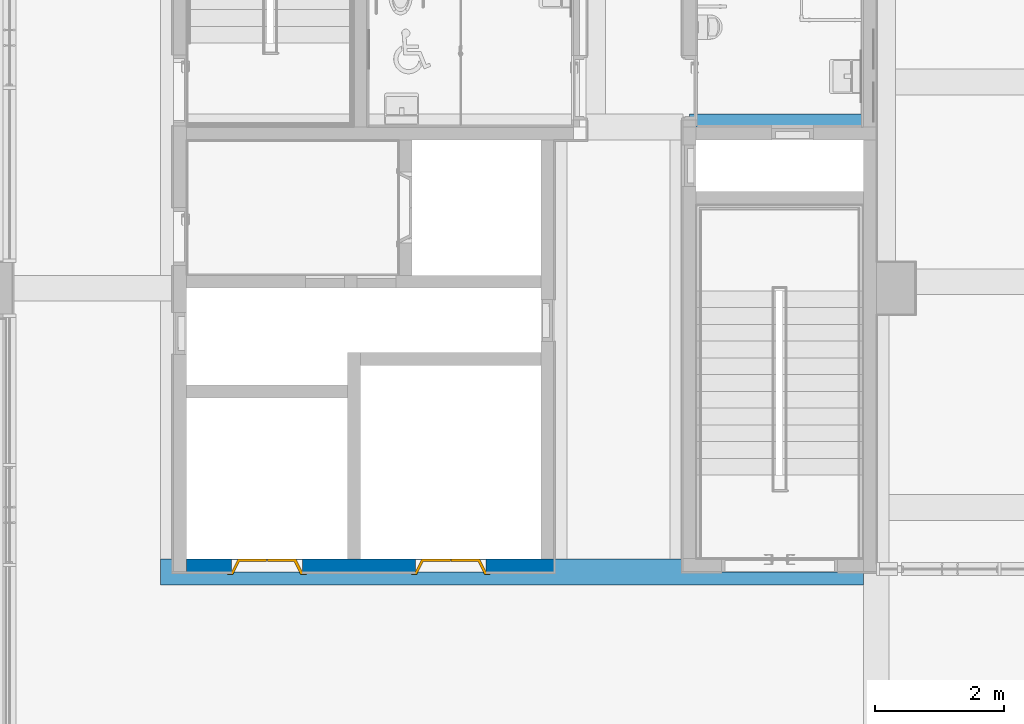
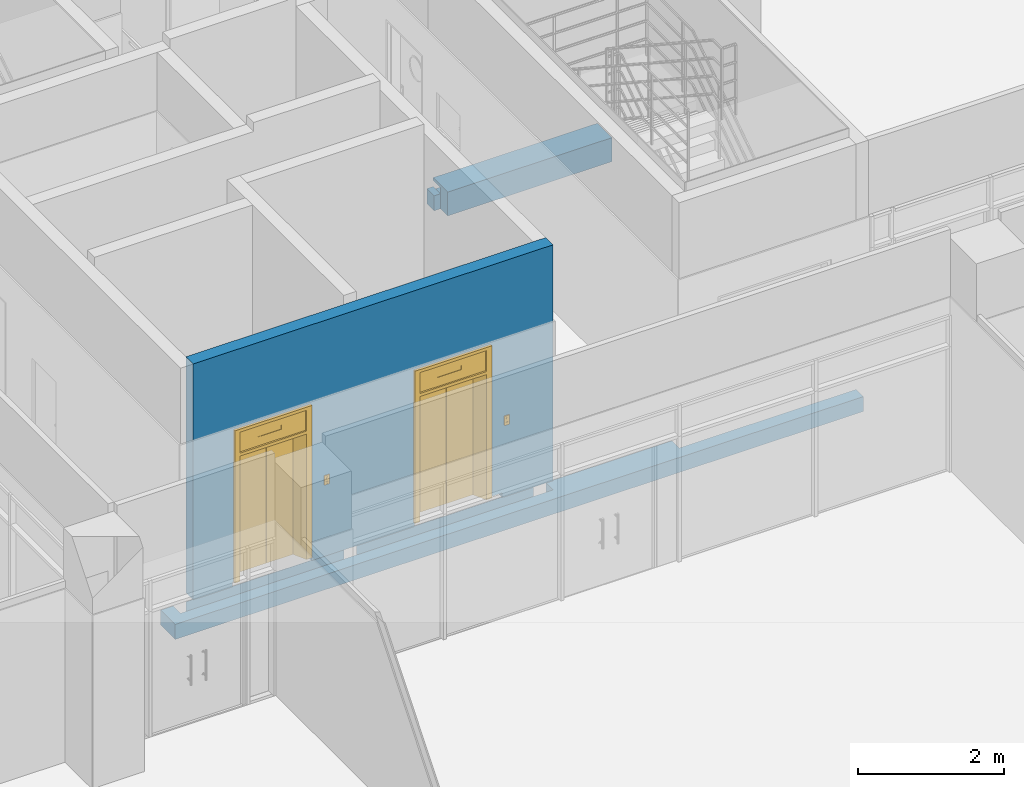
# One storey, part 60 of 76: 2 beams, 2 doors, 1 wall, 2 openings.
"""IFC2X3 building model written with IfcOpenShell, lengths in millimetres."""

from ifc_helpers import new_model, entity, si_unit, converted_unit, derived_unit, direction, frame, frame_2d, origin, place, context, subcontext, project, spatial, rectangle, extrude, faceted_brep, source, transform, mapped, material, material_list, layer, layer_set, type_object, type_shapes, element, fill, save


model = new_model("IFC2X3")

# Units and contexts
model_context = context("Model", 3, precision=0.01, world=origin(), true_north=direction((6.123031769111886e-17, 1.0)))
body_context = subcontext(model_context, "Body", "Model", "MODEL_VIEW")
ifc_project = project(units=[si_unit("LENGTHUNIT", "METRE", prefix="MILLI"), si_unit("AREAUNIT", "SQUARE_METRE"), si_unit("VOLUMEUNIT", "CUBIC_METRE"), converted_unit("PLANEANGLEUNIT", "DEGREE", entity("IfcRatioMeasure", 0.017453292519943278), si_unit("PLANEANGLEUNIT", "RADIAN"), dimensions=[0, 0, 0, 0, 0, 0, 0]), si_unit("MASSUNIT", "GRAM", prefix="KILO"), derived_unit("MASSDENSITYUNIT", [(si_unit("MASSUNIT", "GRAM", prefix="KILO"), 1), (si_unit("LENGTHUNIT", "METRE"), -3)]), derived_unit("MOMENTOFINERTIAUNIT", [(si_unit("LENGTHUNIT", "METRE"), 4)]), si_unit("TIMEUNIT", "SECOND"), si_unit("FREQUENCYUNIT", "HERTZ"), si_unit("THERMODYNAMICTEMPERATUREUNIT", "DEGREE_CELSIUS"), derived_unit("THERMALTRANSMITTANCEUNIT", [(si_unit("MASSUNIT", "GRAM", prefix="KILO"), 1), (si_unit("THERMODYNAMICTEMPERATUREUNIT", "KELVIN"), -1), (si_unit("TIMEUNIT", "SECOND"), -3)]), derived_unit("VOLUMETRICFLOWRATEUNIT", [(si_unit("LENGTHUNIT", "METRE"), 3), (si_unit("TIMEUNIT", "SECOND"), -1)]), derived_unit("MASSFLOWRATEUNIT", [(si_unit("MASSUNIT", "GRAM", prefix="KILO"), 1), (si_unit("TIMEUNIT", "SECOND"), -1)]), derived_unit("ROTATIONALFREQUENCYUNIT", [(si_unit("TIMEUNIT", "SECOND"), -1)]), si_unit("ELECTRICCURRENTUNIT", "AMPERE"), si_unit("ELECTRICVOLTAGEUNIT", "VOLT"), si_unit("POWERUNIT", "WATT"), si_unit("FORCEUNIT", "NEWTON", prefix="KILO"), si_unit("ILLUMINANCEUNIT", "LUX"), si_unit("LUMINOUSFLUXUNIT", "LUMEN"), si_unit("LUMINOUSINTENSITYUNIT", "CANDELA"), derived_unit("USERDEFINED", [(si_unit("MASSUNIT", "GRAM", prefix="KILO"), -1), (si_unit("LENGTHUNIT", "METRE"), -2), (si_unit("TIMEUNIT", "SECOND"), 3), (si_unit("LUMINOUSFLUXUNIT", "LUMEN"), 1)]), derived_unit("SOUNDPOWERUNIT", [(si_unit("MASSUNIT", "GRAM", prefix="KILO"), 1), (si_unit("LENGTHUNIT", "METRE"), 2), (si_unit("TIMEUNIT", "SECOND"), -3)]), derived_unit("SOUNDPRESSUREUNIT", [(si_unit("MASSUNIT", "GRAM", prefix="KILO"), 1), (si_unit("LENGTHUNIT", "METRE"), -1), (si_unit("TIMEUNIT", "SECOND"), -2)]), derived_unit("LINEARVELOCITYUNIT", [(si_unit("LENGTHUNIT", "METRE"), 1), (si_unit("TIMEUNIT", "SECOND"), -1)]), si_unit("PRESSUREUNIT", "PASCAL"), derived_unit("USERDEFINED", [(si_unit("LENGTHUNIT", "METRE"), -2), (si_unit("MASSUNIT", "GRAM", prefix="KILO"), 1), (si_unit("TIMEUNIT", "SECOND"), -2)]), derived_unit("LINEARFORCEUNIT", [(si_unit("MASSUNIT", "GRAM", prefix="KILO"), 1), (si_unit("LENGTHUNIT", "METRE"), 1), (si_unit("TIMEUNIT", "SECOND"), -2), (si_unit("LENGTHUNIT", "METRE"), -1)]), derived_unit("PLANARFORCEUNIT", [(si_unit("MASSUNIT", "GRAM", prefix="KILO"), 1), (si_unit("LENGTHUNIT", "METRE"), 1), (si_unit("TIMEUNIT", "SECOND"), -2), (si_unit("LENGTHUNIT", "METRE"), -2)])], contexts=[model_context])

# Site, building, storey
site_placement = place(None, frame((-14167.972527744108, -657.2125860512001, 0.0)))
site = spatial("IfcSite", under=ifc_project, at=site_placement, Name="Default", CompositionType="ELEMENT")
building_placement = place(site_placement, origin())
building = spatial("IfcBuilding", under=site, at=building_placement, Name="Sample Building", CompositionType="ELEMENT")
storey_placement = place(building_placement, frame((0.0, 0.0, 9300.0)))
storey = spatial("IfcBuildingStorey", under=building, at=storey_placement, Name="지상 3층", CompositionType="ELEMENT", Elevation=9300.000000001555)

# Beams
ifc_material_1 = material(Name="KBIMS-콘크리트")
beam_type_1 = type_object("IfcBeamType", Name="BM111-철근콘크리트구조 보:BM110-철근 콘크리트구조 보_400 x 400_2-10B5", PredefinedType="NOTDEFINED")
beam_1_placement = place(storey_placement, frame((38067.9637981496, 22257.212429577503, -400.0)))
element("IfcBeam", 1, at=beam_1_placement, inside=storey, type_object=beam_type_1, material=ifc_material_1, Name="BM111-철근콘크리트구조 보:BM110-철근 콘크리트구조 보_400 x 400_2-10B5", ObjectType="BM111-철근콘크리트구조 보:BM110-철근 콘크리트구조 보_400 x 400_2-10B5", context=body_context, shape_type="Brep", body=[
    faceted_brep([(2700.0088093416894, 0.0, 400.0), (2700.0088093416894, 400.0, 400.0), (99.99126388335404, 400.0, 400.0), (99.99563194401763, 199.99988165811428, 400.0), (100.0, 0.0, 400.0), (2700.0088093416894, 0.0, 0.0), (100.0, 0.0, 0.0), (2700.008809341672, 400.0, 0.0), (100.0, 199.99986890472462, 0.0), (0.0, 199.99986890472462, 0.0), (0.0, 400.0, 0.0), (2700.008809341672, 400.0, 350.0), (99.99126388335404, 400.0, 350.0), (2700.0088093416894, 400.0, 200.0), (2700.0088093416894, 199.99987390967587, 200.0), (2700.0088093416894, 199.99987390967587, 350.0), (99.99126388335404, 400.0, 250.0), (0.0, 400.0, 250.0), (0.0, 199.99986890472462, 250.0), (99.99126388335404, 199.99987390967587, 250.0), (100.0, 400.0, 350.0), (100.0, 199.99987390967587, 350.0), (100.0, 199.99987390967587, 250.0), (99.99126388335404, 199.99987390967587, 200.0), (99.99126388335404, 400.0, 200.0), (2699.999956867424, 199.99987390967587, 350.0), (2699.999956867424, 199.99987390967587, 200.0), (99.99126388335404, 199.99987390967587, 350.0), (99.99563194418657, 199.99986890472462, 250.0)], [[[0, 1, 2, 3, 4]], [[5, 0, 4, 6]], [[7, 5, 6, 8, 9, 10]], [[1, 11, 12, 2]], [[1, 0, 5, 7, 13, 14, 15, 11]], [[16, 17, 18, 19]], [[2, 20, 21, 22, 8, 6, 4, 3]], [[23, 14, 13, 24]], [[25, 21, 12, 11]], [[26, 23, 22, 27, 15]], [[23, 24, 16, 19]], [[7, 10, 17, 16, 24, 13]], [[8, 28, 18, 9]], [[17, 10, 9, 18]]]),
])
ifc_material_list_1 = material_list([ifc_material_1, ifc_material_1, ifc_material_1])
ifc_material_list_2 = material_list([ifc_material_1, ifc_material_1, ifc_material_1])
beam_type_2 = type_object("IfcBeamType", Name="BM111-철근콘크리트구조 보:BM110-철근 콘크리트구조 보_400 x 400_2-10WG1", PredefinedType="BEAM", material=ifc_material_list_2)
shared_shape_1 = source(origin(), body_context, "Body", "Brep", [
    faceted_brep([(0.0, 400.0, 0.0), (0.0, 400.0, 250.0), (200.0173127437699, 400.0, 250.0), (200.0173127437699, 400.0, 0.0), (0.0, 0.0, 0.0), (200.01731274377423, 196.09034288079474, 0.0), (6100.026042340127, 196.09034288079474, 0.0), (6100.026042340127, 400.0, 0.0), (6300.0086929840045, 400.0, 0.0), (7900.0, 400.0, 0.0), (8100.017349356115, 400.0, 0.0), (8100.01734935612, 199.99969094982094, 0.0), (10900.008692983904, 199.99969094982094, 0.0), (10900.008692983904, 0.0, 0.0), (10900.008692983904, 0.0, 250.0), (0.0, 0.0, 250.0), (10900.008692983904, 199.99969094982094, 250.0), (200.0173127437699, 196.09034288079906, 250.0), (400.0173127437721, 196.09034288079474, 250.0), (6100.026042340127, 196.09034288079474, 250.0), (6100.026042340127, 396.09034288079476, 250.0), (6100.026042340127, 400.0, 250.0), (8100.017349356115, 199.99969094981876, 250.0), (8100.017349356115, 400.0, 250.0), (7900.0, 400.0, 250.0), (6300.0086929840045, 400.0, 250.0)], [[[0, 1, 2, 3]], [[4, 0, 3, 5, 6, 7, 8, 9, 10, 11, 12, 13]], [[4, 13, 14, 15]], [[0, 4, 15, 1]], [[14, 13, 12, 16]], [[17, 5, 3, 2]], [[5, 17, 18, 19, 6]], [[6, 19, 20, 21, 7]], [[15, 14, 16, 22, 23, 24, 25, 21, 20, 19, 18, 17, 2, 1]], [[7, 21, 25, 24, 23, 10, 9, 8]], [[11, 22, 16, 12]], [[22, 11, 10, 23]]]),
    faceted_brep([(400.0173127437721, 400.0, 250.0), (400.0173127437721, 396.09034288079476, 250.0), (2900.0262682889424, 396.09034288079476, 250.0), (2900.0262682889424, 400.0, 250.0), (400.0173127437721, 400.0, 0.0), (400.0173127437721, 396.0903428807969, 0.0), (400.0173493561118, 400.0, 250.0), (2900.0262682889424, 400.0, 0.0), (2900.0262682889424, 396.09034288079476, 0.0)], [[[0, 1, 2, 3]], [[0, 4, 5, 1]], [[4, 6, 3, 7]], [[8, 7, 3, 2]], [[5, 4, 7, 8]], [[1, 5, 8, 2]]]),
    faceted_brep([(3100.0262682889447, 396.09034288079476, 250.0), (3100.0262682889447, 396.09034288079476, 0.0), (5900.026042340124, 396.09034288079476, 0.0), (5900.026042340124, 396.09034288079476, 250.0), (3100.0262682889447, 400.0, 0.0), (3100.0262682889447, 400.0, 250.0), (5900.0260423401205, 400.0, 250.0), (5900.026042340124, 400.0, 0.0)], [[[0, 1, 2, 3]], [[4, 1, 0, 5]], [[6, 5, 0, 3]], [[5, 6, 7, 4]], [[2, 7, 6, 3]], [[1, 4, 7, 2]]]),
])
type_shapes(beam_type_2, [shared_shape_1])
beam_2_placement = place(storey_placement, frame((29867.946448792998, 15357.21260419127, -400.0)))
element("IfcBeam", 2, at=beam_2_placement, inside=storey, type_object=beam_type_2, material=ifc_material_list_1, Name="BM111-철근콘크리트구조 보:BM110-철근 콘크리트구조 보_400 x 400_2-10WG1", ObjectType="BM111-철근콘크리트구조 보:BM110-철근 콘크리트구조 보_400 x 400_2-10WG1", context=body_context, shape_type="MappedRepresentation", body=[
    mapped(shared_shape_1, transform((0.0, 0.0, 0.0), scale=1.0)),
])

# Wall, openings, doors
ifc_layer = layer(ifc_material_1, 200.0)
ifc_layer_set = layer_set([ifc_layer], Name="기본 벽:WA111-철근콘크리트구조 벽 200mm_CW1")
wall_type = type_object("IfcWallType", Name="기본 벽:WA111-철근콘크리트구조 벽 200mm_CW1", PredefinedType="STANDARD", material=ifc_layer_set)
wall_placement = place(storey_placement, frame((35967.97249113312, 15657.302947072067, -2.297844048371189e-09), z_axis=(0.0, 0.0, 1.0), x_axis=(-1.0, 0.0, 0.0)))
wall = element("IfcWall", 3, at=wall_placement, inside=storey, type_object=wall_type, Name="기본 벽:WA111-철근콘크리트구조 벽 200mm_CW1", ObjectType="기본 벽:WA111-철근콘크리트구조 벽 200mm_CW1", context=body_context, shape_type="Brep", body=[
    faceted_brep([(2149.9997740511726, -100.0, 2630.0), (2149.9997740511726, -100.0, 80.0), (2194.9999097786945, -100.0, 80.0), (2194.9999097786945, -100.0, 0.0), (2999.9997740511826, -100.0, 0.0), (3199.999774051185, -100.0, 0.0), (3825.9232253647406, -100.0, 0.0), (3825.9232253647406, -100.0, 80.0), (3900.0, -100.0, 80.0), (3900.0, -100.0, 2630.0), (5000.0, -100.0, 2630.0), (5000.0, -100.0, 80.0), (5075.923225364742, -100.0, 80.0), (5075.923225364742, -100.0, 0.0), (5700.008729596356, -100.0, 0.0), (5700.008729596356, -100.0, 3950.0), (200.0, -100.0, 3950.0), (0.0, -100.0, 3950.0), (0.0, -100.0, 2680.0), (0.0, -100.0, 80.0), (0.0, -100.0, 0.0), (200.0, -100.0, 0.0), (804.9999097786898, -100.0, 0.0), (804.9999097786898, -100.0, 80.0), (1049.9997740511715, -100.0, 80.0), (1049.9997740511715, -100.0, 2630.0), (0.0, 100.0, 3950.0), (5700.008729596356, 100.0, 3950.0), (5700.008729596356, 100.0, 80.0), (5700.008729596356, 100.0, 0.0), (5075.923225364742, 100.0, 0.0), (5075.923225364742, 100.0, 80.0), (5000.0, 100.0, 80.0), (5000.0, 100.0, 2630.0), (3900.0, 100.0, 2630.0), (3900.0, 100.0, 80.0), (3825.9232253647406, 100.0, 80.0), (3825.9232253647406, 100.0, 0.0), (2194.9999097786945, 100.0, 0.0), (2194.9999097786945, 100.0, 80.0), (2149.9997740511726, 100.0, 80.0), (2149.9997740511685, 100.0, 2630.0), (1049.9997740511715, 100.0, 2630.0), (1049.9997740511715, 100.0, 80.0), (804.9999097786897, 100.0, 80.0), (804.9999097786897, 100.0, 0.0), (0.0, 100.0, 0.0), (0.0, 100.0, 80.0), (0.0, 100.0, 3700.0)], [[[0, 1, 2, 3, 4, 5, 6, 7, 8, 9, 10, 11, 12, 13, 14, 15, 16, 17, 18, 19, 20, 21, 22, 23, 24, 25]], [[26, 27, 28, 29, 30, 31, 32, 33, 34, 35, 36, 37, 38, 39, 40, 41, 42, 43, 44, 45, 46, 47, 48]], [[20, 46, 45, 22, 21]], [[46, 20, 19, 18, 17, 26, 48, 47]], [[14, 29, 28, 27, 15]], [[27, 26, 17, 16, 15]], [[0, 41, 40, 1]], [[41, 0, 25, 42]], [[42, 25, 24, 43]], [[10, 33, 32, 11]], [[33, 10, 9, 34]], [[34, 9, 8, 35]], [[7, 36, 35, 8]], [[12, 31, 30, 13]], [[36, 7, 6, 37]], [[2, 39, 38, 3]], [[44, 23, 22, 45]], [[23, 44, 43, 24]], [[31, 12, 11, 32]], [[39, 2, 1, 40]], [[6, 5, 4, 3, 38, 37]], [[29, 14, 13, 30]]]),
])
opening_1_placement = place(wall_placement, frame((5000.0, 100.0, 80.0)))
opening_1 = element("IfcOpeningElement", 4, at=opening_1_placement, cuts=wall, Name="EE111-엘리베이터문(문):EE111-엘리베이터문(20인승)_1100x2550:1", ObjectType="Opening", context=body_context, shape_type="SweptSolid", body=[
    extrude(rectangle(XDim=2549.999999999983, YDim=1099.9999999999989, at=frame_2d((1274.9999999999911, 550.0000000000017), x_axis=(1.0, 0.0))), frame((0.0, 0.0, 0.0), z_axis=(0.0, -1.0, 0.0), x_axis=(0.0, 0.0, 1.0)), (0.0, 0.0, 1.0), 200.0),
])
opening_2_placement = place(wall_placement, frame((2149.9997740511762, 100.0, 80.0)))
opening_2 = element("IfcOpeningElement", 5, at=opening_2_placement, cuts=wall, Name="EE111-엘리베이터문(문):EE111-엘리베이터문(20인승)_1100x2550:1", ObjectType="Opening", context=body_context, shape_type="SweptSolid", body=[
    extrude(rectangle(XDim=2549.999999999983, YDim=1099.9999999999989, at=frame_2d((1274.9999999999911, 550.0000000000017), x_axis=(1.0, 0.0))), frame((0.0, 0.0, 0.0), z_axis=(0.0, -1.0, 0.0), x_axis=(0.0, 0.0, 1.0)), (0.0, 0.0, 1.0), 200.0),
])
ifc_material_2 = material(Name="<Unnamed>")
ifc_material_list_3 = material_list([ifc_material_2, ifc_material_2, ifc_material_2, ifc_material_2])
door_style = type_object("IfcDoorStyle", Name="EE111-엘리베이터문(문):EE111-엘리베이터문(20인승)_1100x2550", ConstructionType="NOTDEFINED", OperationType="DOUBLE_DOOR_SLIDING", ParameterTakesPrecedence=False, Sizeable=False, material=ifc_material_list_3)
shared_shape_2 = source(origin(), body_context, "Body", "Brep", [
    faceted_brep([(-296.2736811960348, 220.43384628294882, 1175.0), (-313.5941892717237, 220.4338462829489, 1145.0), (-330.9146973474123, 220.43384628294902, 1175.0), (-296.2736811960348, 215.04269782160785, 1175.0), (-330.9146973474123, 215.0426978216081, 1175.0), (-313.5941892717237, 215.04269782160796, 1145.0)], [[[0, 1, 2]], [[3, 4, 5]], [[1, 0, 3, 5]], [[2, 1, 5, 4]], [[0, 2, 4, 3]]]),
    faceted_brep([(-330.9146973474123, 220.43384628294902, 1225.0), (-296.2736811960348, 220.43384628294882, 1225.0), (-296.2736811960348, 215.04269782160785, 1225.0), (-330.9146973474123, 215.04269782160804, 1225.0), (-313.5941892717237, 220.4338462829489, 1255.0), (-313.5941892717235, 215.04269782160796, 1255.0)], [[[0, 1, 2, 3]], [[4, 0, 3, 5]], [[1, 4, 5, 2]], [[2, 5, 3]], [[1, 0, 4]]]),
    faceted_brep([(-351.5567877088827, 215.0426978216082, 1277.0326998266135), (-275.63159083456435, 215.04269782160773, 1277.0326998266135), (-275.63159083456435, 215.04269782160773, 1122.967300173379), (-351.5567877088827, 215.0426978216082, 1122.967300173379), (-351.55678770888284, 200.0, 1277.0326998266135), (-351.55678770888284, 200.0, 1122.967300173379), (-275.6315908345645, 200.0, 1122.967300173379), (-275.6315908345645, 200.0, 1277.0326998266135)], [[[0, 1, 2, 3]], [[4, 5, 6, 7]], [[1, 0, 4, 7]], [[2, 1, 7, 6]], [[3, 2, 6, 5]], [[0, 3, 5, 4]]]),
    faceted_brep([(-60.0, 200.0, 2550.0), (-60.0, 240.0, 2550.0), (-60.0, 240.0, 0.0), (-60.0, 200.0, 0.0), (703.014298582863, 240.0, 2550.0), (703.014298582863, 240.0, 2500.0), (27.911234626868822, 240.0, 2500.0), (27.911234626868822, 240.0, 2150.0), (703.014298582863, 240.0, 2150.0), (703.014298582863, 240.0, 2100.0), (27.911234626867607, 240.0, 2100.0), (27.911234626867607, 240.0, 0.0), (978.5926496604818, 40.0, 0.0), (1078.5926496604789, 240.0, 0.0), (1160.0, 240.0, 0.0), (1160.0, 200.0, 0.0), (1100.0, 200.0, 0.0), (1000.0, 0.0, 0.0), (555.0, 0.0, 0.0), (555.0, 40.0, 0.0), (0.0, 200.0, 2550.0), (0.0, 200.0, 0.0), (100.0, 0.0, 2550.0), (100.0, 0.0, 0.0), (1000.0, 0.0, 2550.0), (545.0, 0.0, 0.0), (545.0, 0.0, 2100.0), (555.0, 0.0, 2100.0), (545.0, 40.0, 0.0), (545.0, 40.0, 2100.0), (555.0, 40.0, 2100.0), (1100.0, 200.0, 2550.0), (1160.0, 200.0, 2550.0), (1160.0, 240.0, 2550.0), (1078.5926496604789, 240.0, 2100.0), (1078.5926496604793, 240.0, 2150.0), (1078.5926496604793, 240.0, 2500.0), (978.5926496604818, 40.0, 2100.0), (127.91123462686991, 40.0, 0.0), (127.91123462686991, 40.0, 2100.0), (1078.5926496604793, 214.08728771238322, 2150.0), (1078.5926496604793, 214.08728771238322, 2500.0), (27.911234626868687, 214.0872877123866, 2500.0), (27.911234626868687, 214.0872877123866, 2150.0), (550.0, 214.08728771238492, 2370.0), (410.8272722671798, 214.08728771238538, 2370.0), (410.8272722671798, 214.08728771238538, 2300.0), (550.0, 214.08728771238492, 2300.0), (789.172727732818, 214.08728771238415, 2300.0), (789.172727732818, 214.08728771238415, 2370.0), (550.0, 208.4787281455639, 2370.0), (410.8272722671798, 208.47872814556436, 2370.0), (410.8272722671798, 208.47872814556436, 2300.0), (789.172727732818, 208.47872814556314, 2300.0), (789.172727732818, 208.47872814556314, 2370.0), (550.0, 208.4787281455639, 2300.0)], [[[0, 1, 2, 3]], [[2, 1, 4, 5, 6, 7, 8, 9, 10, 11]], [[12, 13, 14, 15, 16, 17, 18, 19]], [[20, 0, 3, 21]], [[22, 20, 21, 23]], [[24, 22, 23, 25, 26, 27, 18, 17]], [[25, 28, 29, 26]], [[19, 18, 27, 30]], [[31, 24, 17, 16]], [[32, 31, 16, 15]], [[33, 32, 15, 14]], [[4, 33, 14, 13, 34, 9, 8, 35, 36, 5]], [[13, 12, 37, 34]], [[38, 11, 10, 39]], [[38, 39, 29, 28]], [[37, 12, 19, 30]], [[1, 0, 20, 22, 24, 31, 32, 33, 4]], [[40, 41, 36, 35]], [[41, 42, 6, 5, 36]], [[42, 43, 7, 6]], [[43, 42, 41, 40], [44, 45, 46, 47, 48, 49]], [[50, 51, 45, 44]], [[51, 52, 46, 45]], [[53, 54, 49, 48]], [[54, 50, 44, 49]], [[50, 54, 53, 55, 52, 51]], [[10, 9, 34, 37, 30, 27, 26, 29, 39]], [[43, 40, 35, 8, 7]], [[52, 55, 47, 46]], [[55, 53, 48, 47]], [[21, 3, 2, 11, 38, 28, 25, 23]]]),
])
type_shapes(door_style, [shared_shape_2])
door_1_placement = place(opening_1_placement, frame((-1100.0, -200.0, 2.2973836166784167e-09)))
door_1 = element("IfcDoor", 6, at=door_1_placement, inside=storey, type_object=door_style, material=ifc_material_2, Name="EE111-엘리베이터문(문):EE111-엘리베이터문(20인승)_1100x2550", ObjectType="EE111-엘리베이터문(문):EE111-엘리베이터문(20인승)_1100x2550", OverallHeight=2549.9999999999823, OverallWidth=1100.0000000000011, context=body_context, shape_type="MappedRepresentation", body=[
    mapped(shared_shape_2, transform((0.0, 0.0, 0.0), scale=1.0)),
])
fill(opening_1, door_1)
door_2_placement = place(opening_2_placement, frame((-1100.0, -200.0, 2.2973836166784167e-09)))
door_2 = element("IfcDoor", 7, at=door_2_placement, inside=storey, type_object=door_style, material=ifc_material_2, Name="EE111-엘리베이터문(문):EE111-엘리베이터문(20인승)_1100x2550", ObjectType="EE111-엘리베이터문(문):EE111-엘리베이터문(20인승)_1100x2550", OverallHeight=2549.9999999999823, OverallWidth=1100.0000000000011, context=body_context, shape_type="MappedRepresentation", body=[
    mapped(shared_shape_2, transform((0.0, 0.0, 0.0), scale=1.0)),
])
fill(opening_2, door_2)

save(model, "model.ifc")
